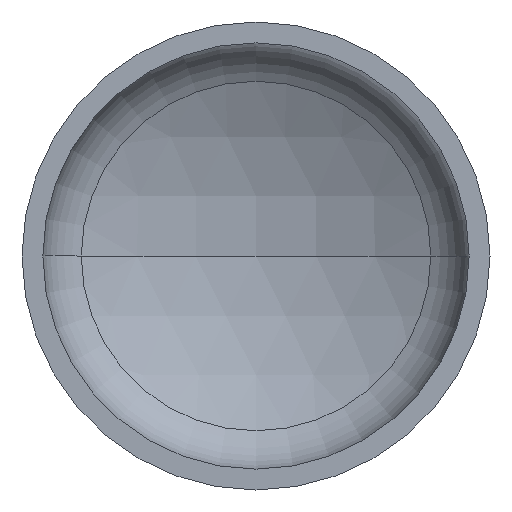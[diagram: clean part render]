
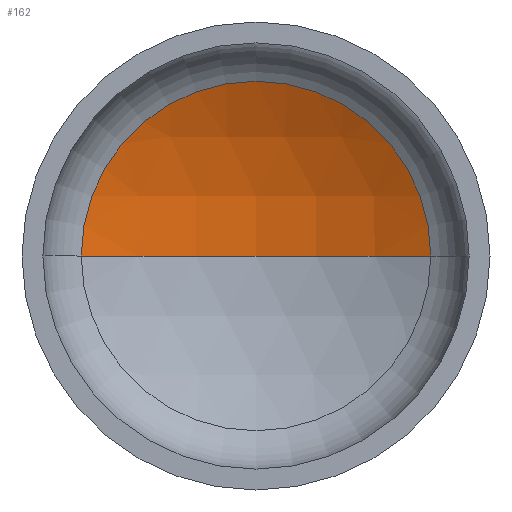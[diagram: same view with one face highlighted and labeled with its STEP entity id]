
A CAD part, front view. The second image highlights one B-rep face of the part: STEP entity #162.
In plain terms, the highlighted spherical face has radius 1040 mm.
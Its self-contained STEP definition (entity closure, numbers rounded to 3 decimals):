
#6 = ORIENTED_EDGE ( 'NONE', *, *, #355, .F. ) ;
#10 = AXIS2_PLACEMENT_3D ( 'NONE', #146, #127, #148 ) ;
#40 = AXIS2_PLACEMENT_3D ( 'NONE', #189, #157, #269 ) ;
#45 = AXIS2_PLACEMENT_3D ( 'NONE', #209, #204, #206 ) ;
#47 = AXIS2_PLACEMENT_3D ( 'NONE', #226, #173, #314 ) ;
#51 = VERTEX_POINT ( 'NONE', #219 ) ;
#93 = ORIENTED_EDGE ( 'NONE', *, *, #141, .T. ) ;
#94 = EDGE_LOOP ( 'NONE', ( #6, #116, #93 ) ) ;
#99 = VERTEX_POINT ( 'NONE', #198 ) ;
#116 = ORIENTED_EDGE ( 'NONE', *, *, #159, .T. ) ;
#127 = DIRECTION ( 'NONE',  ( 0., 0., 1. ) ) ;
#141 = EDGE_CURVE ( 'NONE', #245, #51, #338, .T. ) ;
#146 = CARTESIAN_POINT ( 'NONE',  ( 0., -622.924, 0. ) ) ;
#148 = DIRECTION ( 'NONE',  ( 1., 0., 0. ) ) ;
#157 = DIRECTION ( 'NONE',  ( 0., 0., -1. ) ) ;
#159 = EDGE_CURVE ( 'NONE', #99, #245, #395, .T. ) ;
#162 = ADVANCED_FACE ( 'NONE', ( #214 ), #386, .F. ) ;
#173 = DIRECTION ( 'NONE',  ( 0., -1., 0. ) ) ;
#185 = CARTESIAN_POINT ( 'NONE',  ( 485.333, 296.887, 0. ) ) ;
#189 = CARTESIAN_POINT ( 'NONE',  ( 0., -622.924, 0. ) ) ;
#198 = CARTESIAN_POINT ( 'NONE',  ( 0., 417.076, 0. ) ) ;
#204 = DIRECTION ( 'NONE',  ( 0., 0., -1. ) ) ;
#206 = DIRECTION ( 'NONE',  ( -1., 0., 0. ) ) ;
#209 = CARTESIAN_POINT ( 'NONE',  ( 0., -622.924, 0. ) ) ;
#214 = FACE_OUTER_BOUND ( 'NONE', #94, .T. ) ;
#219 = CARTESIAN_POINT ( 'NONE',  ( -485.333, 296.887, 0. ) ) ;
#226 = CARTESIAN_POINT ( 'NONE',  ( 0., 296.887, 0. ) ) ;
#242 = CIRCLE ( 'NONE', #10, 1040. ) ;
#245 = VERTEX_POINT ( 'NONE', #185 ) ;
#269 = DIRECTION ( 'NONE',  ( -1., 0., 0. ) ) ;
#314 = DIRECTION ( 'NONE',  ( 1., 0., 0. ) ) ;
#338 = CIRCLE ( 'NONE', #47, 485.333 ) ;
#355 = EDGE_CURVE ( 'NONE', #99, #51, #242, .T. ) ;
#386 = SPHERICAL_SURFACE ( 'NONE', #40, 1040. ) ;
#395 = CIRCLE ( 'NONE', #45, 1040. ) ;
